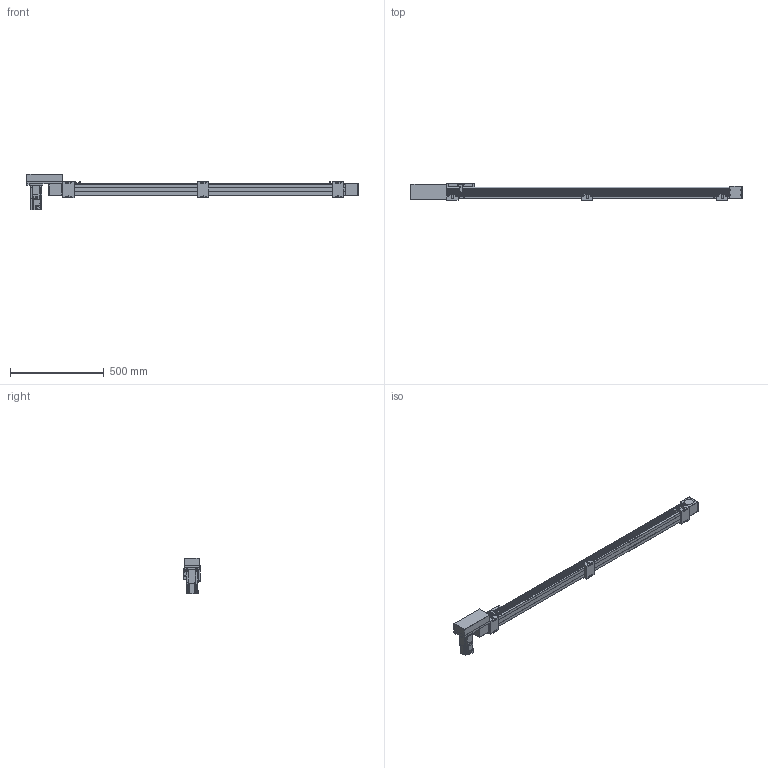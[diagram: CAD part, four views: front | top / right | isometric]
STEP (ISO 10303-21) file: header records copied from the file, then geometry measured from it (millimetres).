
FILE_DESCRIPTION(/* description */ ('STEP AP214'),/* implementation_level */ '2;1');
FILE_NAME(/* name */ 'SK60-P13-S1350-R-T40-C1-N(0)',/* time_stamp */ '2023-04-06T04:27:38+02:00',/* author */ ('License CC BY-ND 4.0'),/* organization */ ('CADENAS'),/* preprocessor_version */ 'ST-DEVELOPER v19.3',/* originating_system */ 'PARTsolutions',/* authorisation */ ' ');
FILE_SCHEMA (('AUTOMOTIVE_DESIGN {1 0 10303 214 3 1 1}'));
Length unit declared in the file: millimetre
Products named in the file (10): SK60-P13-S1350-R-T40-C1-N(0); PSC140-sensor; SK60-S450_seat; SK60-S450-BL-C1_slider; SK60_body3; SK60_body6; SK60-BL_body2; T40-p1; SK60-R_fb; SK60-S1350-R-C1_body
Assembly tree (17 placements, depth 2):
  SK60-P13-S1350-R-T40-C1-N(0)
    PSC140-sensor  x3
    SK60-S450_seat  x3
    SK60-S450-BL-C1_slider
    SK60_body3  x3
    SK60_body6  x2
    SK60-BL_body2  x2
    T40-p1
    SK60-R_fb
    SK60-S1350-R-C1_body
Bounding box: 1770.5 x 90 x 189.7 mm (x, y, z)
Volume: 6804928.1 mm3; surface area: 832978.2 mm2
Topology: 17 solids, 17 shells, 854 faces, 2146 edges, 1413 vertices
Faces by surface type: plane 548, cylinder 278, cone 26, torus 2
Full cylindrical faces by diameter (mm): 2.8 x3, 3.3 x4, 4 x2, 4.5 x30, 4.6 x3, 4.917 x20, 5 x6, 5.478 x4, 5.5 x23, 6.5 x6, 7 x2, 8 x4, 8.5 x4, 9.988 x4, 10 x12, 14 x1, 47 x3, 50 x2
Entity records: 18663 total; most frequent: DIRECTION 3186, CARTESIAN_POINT 3151, ORIENTED_EDGE 2940, EDGE_CURVE 1470, AXIS2_PLACEMENT_3D 1069, LINE 1048, VECTOR 1048, VERTEX_POINT 1034
